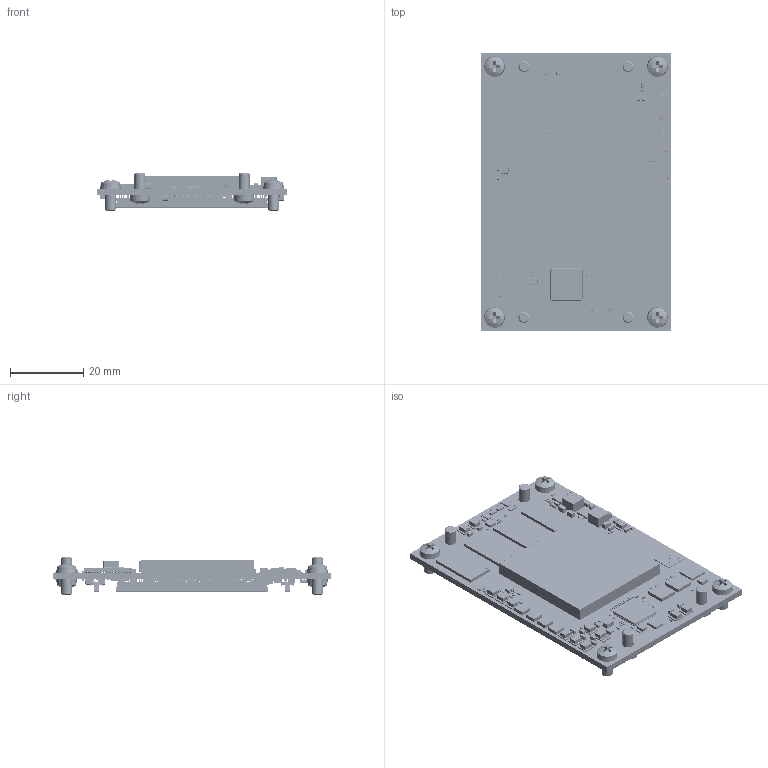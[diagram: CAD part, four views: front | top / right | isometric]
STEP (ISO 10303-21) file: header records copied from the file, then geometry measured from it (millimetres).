
FILE_DESCRIPTION(('Open CASCADE Model'),'2;1');
FILE_NAME('Open CASCADE Shape Model','2026-01-06T14:53:24',('Author'),( 'Open CASCADE'),'Open CASCADE STEP processor 7.5','Open CASCADE 7.5' ,'Unknown');
FILE_SCHEMA(('AUTOMOTIVE_DESIGN { 1 0 10303 214 1 1 1 1 }'));
Length unit declared in the file: millimetre
Products named in the file (498): PCB; Board=projectname; Open CASCADE STEP translator 7.5 1.1.1; R116=projectname; 8935501952; C191=projectname; 8935503472; C190=projectname; 8935502352; C155=projectname; C107=projectname; U37=projectname; TPS54KC23; RZR0016A_FRAME; RZR0016A_MOLD; U19=projectname; L10=projectname; Coilcraft-XAL4030; L9=projectname; R115=projectname; 8935508832; R114=projectname; 8935508752; C189=projectname; User Library-SMD 0201 CAPACITOR; C178=projectname; C161=projectname; User Library-SMD CAPACITOR0402; C159=projectname; U47=projectname; 8638432272; U46=projectname; User Library-SOT353-1; D3=projectname; 8748232656; R112=projectname; RES_0603-0201; R111=projectname; R110=projectname; R109=projectname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
Assembly tree (898 placements, depth 4):
  PCB
    Board=projectname
      Open CASCADE STEP translator 7.5 1.1.1
    R116=projectname
      8935501952
    C191=projectname
      8935503472
    C190=projectname
      8935502352
    C155=projectname
      8935503472
    C107=projectname
      8935502352
    U37=projectname
      TPS54KC23
        RZR0016A_FRAME
        RZR0016A_MOLD
    U19=projectname
      TPS54KC23
        RZR0016A_FRAME
        RZR0016A_MOLD
    L10=projectname
      Coilcraft-XAL4030
    L9=projectname
      Coilcraft-XAL4030
    R115=projectname
      8935508832
    R114=projectname
      8935508752
    C189=projectname
      User Library-SMD 0201 CAPACITOR
    C178=projectname
      User Library-SMD 0201 CAPACITOR
    C161=projectname
      User Library-SMD CAPACITOR0402
    C159=projectname
      User Library-SMD CAPACITOR0402
    U47=projectname
      8638432272
    U46=projectname
      User Library-SOT353-1
    D3=projectname
      8748232656
    R112=projectname
      RES_0603-0201
    R111=projectname
      RES_0603-0201
    R110=projectname
      RES_0603-0201
    R109=projectname
      RES_0603-0201
    R107=projectname
      8935501952
    R106=projectname
      8935508832
    R105=projectname
      8935501952
    R104=projectname
      8935508352
    R103=projectname
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Bounding box: 52 x 76 x 10.25 mm (x, y, z)
Volume: 12937 mm3; surface area: 25867.3 mm2
Topology: 1537 solids, 1545 shells, 46203 faces, 123675 edges, 77064 vertices
Faces by surface type: plane 32051, cylinder 10297, sphere 3224, bspline 549, cone 48, torus 34
Full cylindrical faces by diameter (mm): 0.2 x13, 0.4 x2, 0.6 x7, 0.8 x6, 1.2 x1, 3.2 x8
Entity records: 435688 total; most frequent: CARTESIAN_POINT 76439, ORIENTED_EDGE 61526, DIRECTION 56710, EDGE_CURVE 30763, LINE 25232, VECTOR 25232, VERTEX_POINT 20244, AXIS2_PLACEMENT_3D 15739
